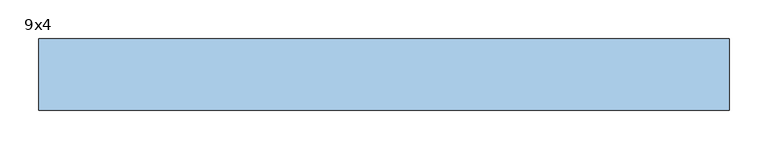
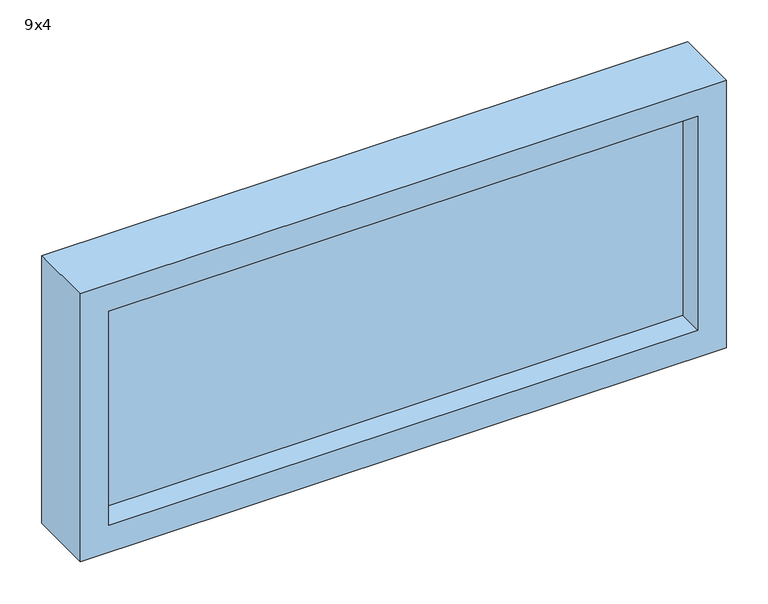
"""IFC4 building model written with IfcOpenShell, lengths in millimetres: window geometry, Vindu FK : 9x4."""

from ifc_helpers import new_model, si_unit, frame, origin, place, context, project, spatial, polyline, outline, extrude, faceted_brep, source, transform, mapped, element, save


def window_9x4_84f952e1(model_context):
    return source(origin(), model_context, "Body", "SolidModel", [
        extrude(outline(polyline([(-406.0, 39.0), (-406.0, 63.0), (406.0, 63.0), (406.0, 39.0), (-406.0, 39.0)])), frame((0.0, 0.0, 929.0), z_axis=(0.0, 0.0, 1.0), x_axis=(1.0, 0.0, 0.0)), (0.0, 0.0, 1.0), 312.0),
        faceted_brep([(-445.0, 3.0, 890.0), (-445.0, 3.0, 1280.0), (-445.0, 95.0, 1280.0), (-445.0, 95.0, 890.0), (-406.0, 63.0, 929.0), (-406.0, 63.0, 1241.0), (-406.0, 3.0, 1241.0), (-406.0, 3.0, 929.0), (-388.0, 95.0, 947.0), (-388.0, 95.0, 1223.0), (-388.0, 63.0, 1223.0), (-388.0, 63.0, 947.0), (445.0, 3.0, 1280.0), (445.0, 95.0, 1280.0), (406.0, 63.0, 1241.0), (406.0, 3.0, 1241.0), (388.0, 95.0, 1223.0), (388.0, 63.0, 1223.0), (445.0, 3.0, 890.0), (445.0, 95.0, 890.0), (406.0, 63.0, 929.0), (406.0, 3.0, 929.0), (388.0, 95.0, 947.0), (388.0, 63.0, 947.0)], [[[0, 1, 2, 3]], [[4, 5, 6, 7]], [[8, 9, 10, 11]], [[1, 12, 13, 2]], [[5, 14, 15, 6]], [[9, 16, 17, 10]], [[12, 18, 19, 13]], [[14, 20, 21, 15]], [[16, 22, 23, 17]], [[18, 0, 3, 19]], [[1, 0, 18, 12], [7, 6, 15, 21]], [[20, 4, 7, 21]], [[5, 4, 20, 14], [11, 10, 17, 23]], [[22, 8, 11, 23]], [[3, 2, 13, 19], [9, 8, 22, 16]]]),
    ])


if __name__ == "__main__":
    model = new_model("IFC4")
    model_context = context("Model", 3, world=origin())
    ifc_project = project(units=[si_unit("LENGTHUNIT", "METRE", prefix="MILLI")], contexts=[model_context])
    site = spatial("IfcSite", under=ifc_project)
    building = spatial("IfcBuilding", under=site)
    placement = place(None, origin())
    window_9x4_shape = window_9x4_84f952e1(model_context)
    element("IfcWindow", 1, ObjectType="Vindu FK : 9x4", at=placement, inside=building, context=model_context, shape_type="MappedRepresentation", body=[
        mapped(window_9x4_shape, transform((0.0, 0.0, 0.0), x_axis=(1.0, 0.0, 0.0), y_axis=(0.0, 1.0, 0.0), z_axis=(0.0, 0.0, 1.0))),
    ])
    save(model, "model.ifc")
